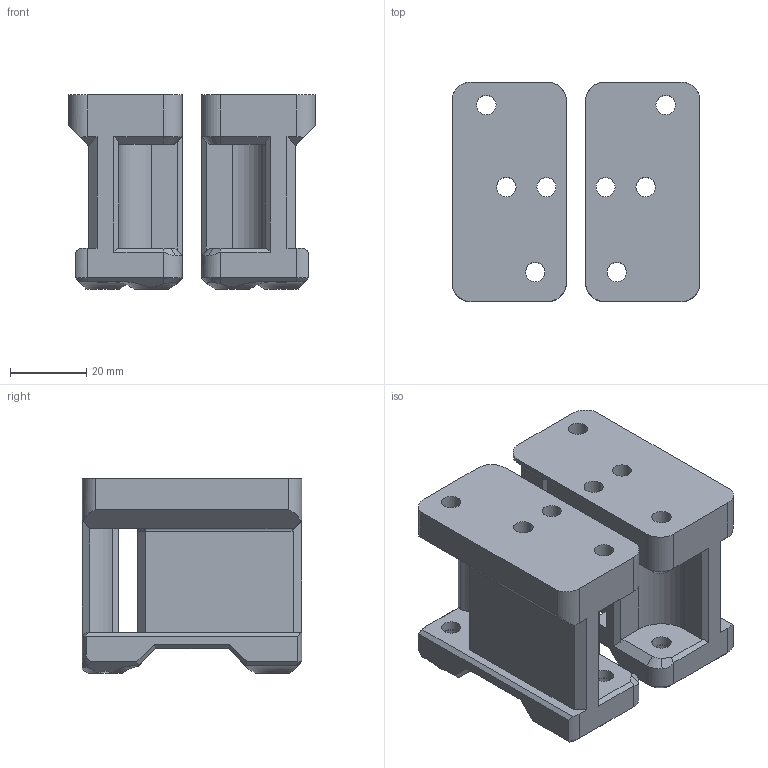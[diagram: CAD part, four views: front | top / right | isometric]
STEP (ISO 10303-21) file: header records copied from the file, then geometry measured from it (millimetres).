
FILE_DESCRIPTION(/* description */ (''),/* implementation_level */ '2;1');
FILE_NAME(/* name */ 'C:/Users/fbroise/Downloads/VC30VULC.step',/* time_stamp */ '2022-09-12T15:16:47+02:00',/* author */ (''),/* organization */ (''),/* preprocessor_version */ 'ST-DEVELOPER v19',/* originating_system */ 'Autodesk Translation Framework v11.7.0.108',/* authorisation */ '');
FILE_SCHEMA (('AUTOMOTIVE_DESIGN { 1 0 10303 214 3 1 1 }'));
Length unit declared in the file: millimetre
Products named in the file (1): FusionComponent
Bounding box: 64.5 x 57.5 x 51 mm (x, y, z)
Volume: 88081 mm3; surface area: 30376.6 mm2
Topology: 2 solids, 2 shells, 262 faces, 698 edges, 444 vertices
Faces by surface type: plane 168, cylinder 62, cone 18, bspline 10, torus 4
Full cylindrical faces by diameter (mm): 3.6 x4, 5 x2, 5.1 x12, 5.6 x4
Entity records: 8789 total; most frequent: CARTESIAN_POINT 2173, ORIENTED_EDGE 1396, DIRECTION 1324, EDGE_CURVE 698, LINE 462, VECTOR 462, VERTEX_POINT 444, AXIS2_PLACEMENT_3D 431
